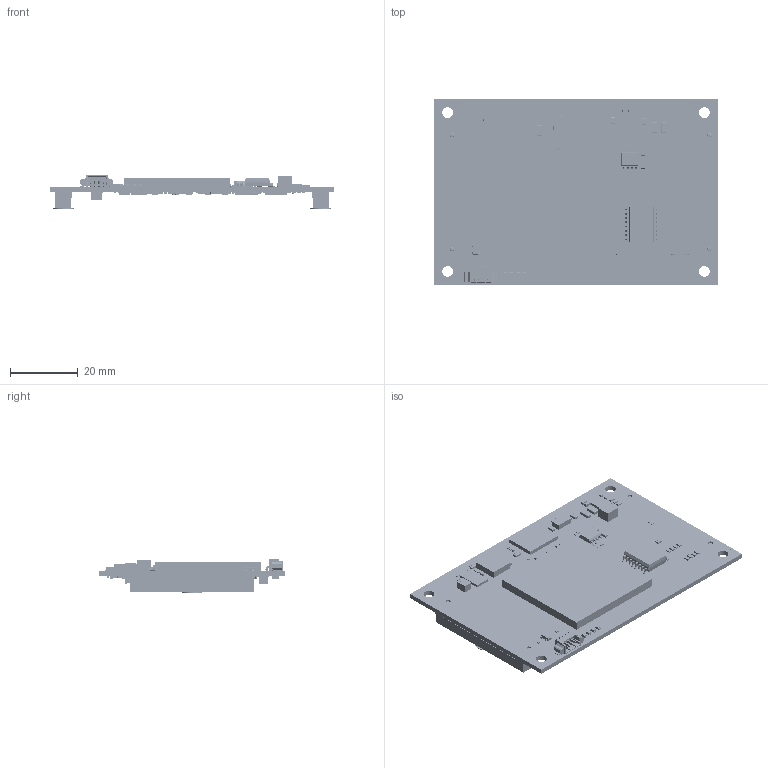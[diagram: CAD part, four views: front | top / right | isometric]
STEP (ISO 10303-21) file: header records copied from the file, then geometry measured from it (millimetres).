
FILE_DESCRIPTION(/* description */ ('PCB Design'),/* implementation_level */ '2;1');
FILE_NAME(/* name */ '7133180-1_EPSM-12G2F_101420-3D',/* time_stamp */ '2020-10-15T00:22:20+06:00',/* author */ (''),/* organization */ (''),/* preprocessor_version */ 'ST-DEVELOPER v16',/* originating_system */ 'allegro_17.2S058',/* authorisation */ '');
FILE_SCHEMA (('AUTOMOTIVE_DESIGN { 1 0 10303 214 3 1 1 }'));
Length unit declared in the file: millimetre
Products named in the file (59): 7133180-1_EPSM-12G2F_101420; BOARD_OUTLINE; COMPONENTS; SOT-363_H1_1_P6; SM0603LED_AC; CON_MOL-53261-0471; TP_HOLE_D90MM; CAP_0603-HT0_9_IR; CAP_0603-H0_9; IND4X4_H3_P2; QFN3X3-16-32M; SOP_4X5_H1_7_P8_EP; CAP0805; QFN_18_MPM3830; SM0402C; CAP_0603-HT0_9; IND_IHLP-2020BZ; CAP_1210_EIA; QFN_3X6_P28_HT; IND_0603-HT0_9; MSOP3X3-10-43M; VSSOP-8; OSC_5X3_33M; SKT_2X8_PS1_27-HT5_4_P16; BGA60_L9_D8_9X11D5; BGA27X27-672-102M; TP30T; SOT143-48M; RES_0603; CAP_1206; CAP_0402; RES_0402; MH250X125GND_DS; CON_SAM-ERF5-060-05P0-L-DV; FID_40C; APT1608; 532610471; CCS_CCSTD_0603_L1.75W0.95T0.87B0.35; Assem1; body_SSMC_4030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
Assembly tree (348 placements, depth 5):
  7133180-1_EPSM-12G2F_101420
    BOARD_OUTLINE
    COMPONENTS
      SOT-363_H1_1_P6  x2
      SM0603LED_AC  x4
        APT1608
      CON_MOL-53261-0471
        532610471
      TP_HOLE_D90MM
      CAP_0603-HT0_9_IR  x11
        CCS_CCSTD_0603_L1.75W0.95T0.87B0.35
      CAP_0603-H0_9  x3
        CCS_CCSTD_0603_L1.75W0.95T0.87B0.35
      IND4X4_H3_P2
        Assem1
          body_SSMC_4030
          land_pattern_SSMC_4020  x2
      QFN3X3-16-32M
      SOP_4X5_H1_7_P8_EP
        product
      CAP0805  x8
        Document
      QFN_18_MPM3830
        MPM3606
      SM0402C
      CAP_0603-HT0_9  x2
        Document
      IND_IHLP-2020BZ
      CAP_1210_EIA  x3
        product
      QFN_3X6_P28_HT
      IND_0603-HT0_9  x4
        product
      MSOP3X3-10-43M
      VSSOP-8
        product
      OSC_5X3_33M
        ASFLMB
      SKT_2X8_PS1_27-HT5_4_P16
        product
      BGA60_L9_D8_9X11D5
      BGA27X27-672-102M
      TP30T  x14
      SOT143-48M
        product
      RES_0603  x22
        Document
      CAP_1206  x5
        Document
      CAP_0402  x131
        CCS_CCSTD_0402_L1.05W0.55T0.55B0.3
      RES_0402  x80
        Document
      MH250X125GND_DS  x4
      CON_SAM-ERF5-060-05P0-L-DV  x2
        ERF5-060-05.0-L-DV-K-TR
          _ERF5-060-05.0-DV_socket
          _C-247-060-05.0
          _K-DOT-.236-.343-.005_polyamide_pick
      FID_40C  x9
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Bounding box: 84 x 55.02 x 9.86 mm (x, y, z)
Volume: 1212.7 mm3; surface area: 19460.6 mm2
Topology: 1044 solids, 1863 shells, 29636 faces, 76209 edges, 47166 vertices
Faces by surface type: plane 19071, cylinder 6339, sphere 2320, bspline 1884, extrusion 16, torus 6
Full cylindrical faces by diameter (mm): 0.119 x1, 0.152 x1, 0.199 x1, 0.3 x1, 0.375 x1, 1.32 x2, 6 x2
Entity records: 210663 total; most frequent: CARTESIAN_POINT 42608, ORIENTED_EDGE 27420, DIRECTION 24494, EDGE_CURVE 14430, VECTOR 12415, LINE 12399, VERTEX_POINT 10993, AXIS2_PLACEMENT_3D 6540
